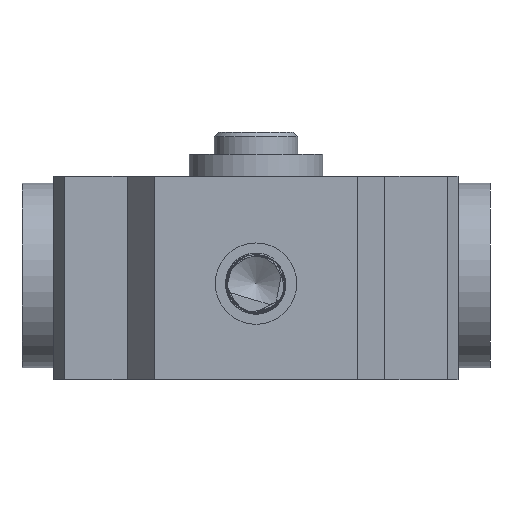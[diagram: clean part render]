
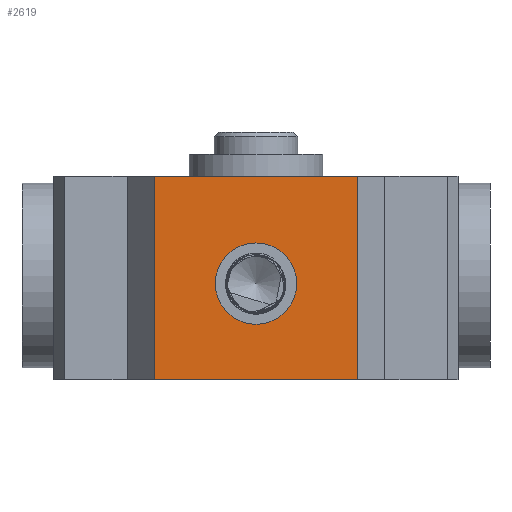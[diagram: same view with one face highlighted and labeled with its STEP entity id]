
A CAD part, front view. The second image highlights one B-rep face of the part: STEP entity #2619.
In plain terms, the highlighted planar face has unit normal (0, -1, 0).
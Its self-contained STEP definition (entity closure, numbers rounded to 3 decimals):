
#1068=LINE('',#16679,#1861);
#1093=LINE('',#16771,#1886);
#1099=LINE('',#16785,#1892);
#1100=LINE('',#16789,#1893);
#1861=VECTOR('',#12445,1.);
#1886=VECTOR('',#12516,1.);
#1892=VECTOR('',#12530,1.);
#1893=VECTOR('',#12535,1.);
#2619=ADVANCED_FACE('',(#3827,#3828),#3307,.F.);
#3307=PLANE('',#11189);
#3827=FACE_BOUND('',#4542,.T.);
#3828=FACE_BOUND('',#4543,.T.);
#4542=EDGE_LOOP('',(#5737));
#4543=EDGE_LOOP('',(#5738,#5739,#5740,#5741));
#5737=ORIENTED_EDGE('',*,*,#9431,.F.);
#5738=ORIENTED_EDGE('',*,*,#9423,.T.);
#5739=ORIENTED_EDGE('',*,*,#9432,.F.);
#5740=ORIENTED_EDGE('',*,*,#9376,.F.);
#5741=ORIENTED_EDGE('',*,*,#9430,.T.);
#8349=VERTEX_POINT('',#16678);
#8350=VERTEX_POINT('',#16680);
#8393=VERTEX_POINT('',#16770);
#8394=VERTEX_POINT('',#16772);
#8398=VERTEX_POINT('',#16788);
#9376=EDGE_CURVE('',#8349,#8350,#1068,.T.);
#9423=EDGE_CURVE('',#8394,#8393,#1093,.T.);
#9430=EDGE_CURVE('',#8349,#8394,#1099,.T.);
#9431=EDGE_CURVE('',#8398,#8398,#10689,.T.);
#9432=EDGE_CURVE('',#8350,#8393,#1100,.T.);
#10689=CIRCLE('',#11188,28.);
#11188=AXIS2_PLACEMENT_3D('',#16787,#12533,#12534);
#11189=AXIS2_PLACEMENT_3D('',#16790,#12536,#12537);
#12445=DIRECTION('',(1.,0.,0.));
#12516=DIRECTION('',(1.,0.,0.));
#12530=DIRECTION('',(0.,0.,-1.));
#12533=DIRECTION('',(0.,-1.,0.));
#12534=DIRECTION('',(1.,0.,0.));
#12535=DIRECTION('',(0.,0.,-1.));
#12536=DIRECTION('',(0.,1.,0.));
#12537=DIRECTION('',(0.,0.,1.));
#16678=CARTESIAN_POINT('',(-70.,-105.,140.));
#16679=CARTESIAN_POINT('',(-70.,-105.,140.));
#16680=CARTESIAN_POINT('',(70.,-105.,140.));
#16770=CARTESIAN_POINT('',(70.,-105.,0.));
#16771=CARTESIAN_POINT('',(-70.,-105.,0.));
#16772=CARTESIAN_POINT('',(-70.,-105.,0.));
#16785=CARTESIAN_POINT('',(-70.,-105.,140.));
#16787=CARTESIAN_POINT('',(0.,-105.,66.));
#16788=CARTESIAN_POINT('',(28.,-105.,66.));
#16789=CARTESIAN_POINT('',(70.,-105.,140.));
#16790=CARTESIAN_POINT('',(-70.,-105.,140.));
